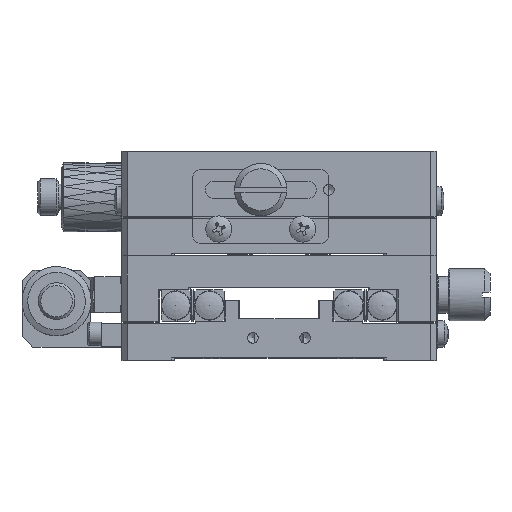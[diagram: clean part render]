
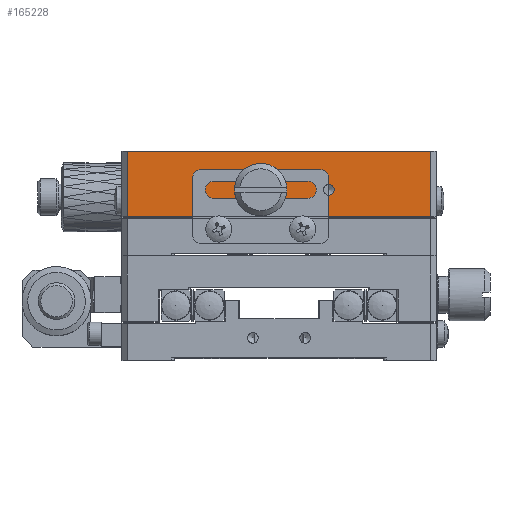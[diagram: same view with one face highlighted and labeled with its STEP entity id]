
A CAD part, top view. The second image highlights one B-rep face of the part: STEP entity #165228.
In plain terms, the highlighted planar face has unit normal (0, 0, 1).
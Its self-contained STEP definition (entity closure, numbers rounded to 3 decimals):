
#516 = FACE_BOUND ( 'NONE', #12198, .T. ) ;
#691 = DIRECTION ( 'NONE',  ( 1., 0., 0. ) ) ;
#2363 = CARTESIAN_POINT ( 'NONE',  ( 85.996, 73.587, 87.192 ) ) ;
#3946 = DIRECTION ( 'NONE',  ( 1., 0., 0. ) ) ;
#5665 = ORIENTED_EDGE ( 'NONE', *, *, #56644, .F. ) ;
#6905 = VERTEX_POINT ( 'NONE', #28017 ) ;
#8396 = CIRCLE ( 'NONE', #93088, 1.25 ) ;
#12198 = EDGE_LOOP ( 'NONE', ( #60523 ) ) ;
#17021 = EDGE_CURVE ( 'NONE', #143756, #112898, #122832, .T. ) ;
#17851 = CARTESIAN_POINT ( 'NONE',  ( 27.996, 73.587, 87.192 ) ) ;
#18568 = VECTOR ( 'NONE', #95592, 1000. ) ;
#21911 = EDGE_LOOP ( 'NONE', ( #32793 ) ) ;
#23674 = FACE_BOUND ( 'NONE', #21911, .T. ) ;
#28017 = CARTESIAN_POINT ( 'NONE',  ( 85.996, 60.987, 87.192 ) ) ;
#28881 = EDGE_CURVE ( 'NONE', #6905, #112898, #81070, .T. ) ;
#30408 = VERTEX_POINT ( 'NONE', #120278 ) ;
#32793 = ORIENTED_EDGE ( 'NONE', *, *, #110389, .F. ) ;
#36505 = DIRECTION ( 'NONE',  ( 0., 0., -1. ) ) ;
#36535 = ORIENTED_EDGE ( 'NONE', *, *, #28881, .T. ) ;
#38330 = EDGE_CURVE ( 'NONE', #143756, #129603, #107705, .T. ) ;
#38488 = VECTOR ( 'NONE', #691, 1000. ) ;
#41291 = AXIS2_PLACEMENT_3D ( 'NONE', #121215, #56177, #3946 ) ;
#49314 = FACE_OUTER_BOUND ( 'NONE', #140068, .T. ) ;
#51318 = ORIENTED_EDGE ( 'NONE', *, *, #129173, .T. ) ;
#52733 = FACE_BOUND ( 'NONE', #119566, .T. ) ;
#53756 = CARTESIAN_POINT ( 'NONE',  ( 51.521, 66.187, 87.192 ) ) ;
#56177 = DIRECTION ( 'NONE',  ( 0., 0., 1. ) ) ;
#56644 = EDGE_CURVE ( 'NONE', #90982, #90982, #8396, .T. ) ;
#57812 = CARTESIAN_POINT ( 'NONE',  ( 26.996, 73.587, 87.192 ) ) ;
#60523 = ORIENTED_EDGE ( 'NONE', *, *, #90553, .F. ) ;
#64050 = LINE ( 'NONE', #130776, #38488 ) ;
#64259 = CARTESIAN_POINT ( 'NONE',  ( 53.496, 66.187, 87.192 ) ) ;
#68902 = CARTESIAN_POINT ( 'NONE',  ( 27.996, 60.987, 87.192 ) ) ;
#81070 = LINE ( 'NONE', #2363, #18568 ) ;
#87419 = CARTESIAN_POINT ( 'NONE',  ( 66.496, 66.187, 87.192 ) ) ;
#88678 = DIRECTION ( 'NONE',  ( -1., 0., 0. ) ) ;
#89137 = DIRECTION ( 'NONE',  ( 1., 0., 0. ) ) ;
#90553 = EDGE_CURVE ( 'NONE', #143622, #143622, #147869, .T. ) ;
#90982 = VERTEX_POINT ( 'NONE', #158569 ) ;
#93088 = AXIS2_PLACEMENT_3D ( 'NONE', #64259, #141261, #143814 ) ;
#94874 = DIRECTION ( 'NONE',  ( 0., -1., 0. ) ) ;
#95592 = DIRECTION ( 'NONE',  ( 0., 1., 0. ) ) ;
#96090 = CARTESIAN_POINT ( 'NONE',  ( 85.996, 73.587, 87.192 ) ) ;
#101506 = PLANE ( 'NONE',  #111644 ) ;
#107705 = LINE ( 'NONE', #17851, #166809 ) ;
#110009 = DIRECTION ( 'NONE',  ( 1., 0., 0. ) ) ;
#110024 = AXIS2_PLACEMENT_3D ( 'NONE', #87419, #112238, #89137 ) ;
#110389 = EDGE_CURVE ( 'NONE', #30408, #30408, #164729, .T. ) ;
#111644 = AXIS2_PLACEMENT_3D ( 'NONE', #153730, #36505, #88678 ) ;
#112238 = DIRECTION ( 'NONE',  ( 0., 0., 1. ) ) ;
#112898 = VERTEX_POINT ( 'NONE', #96090 ) ;
#119566 = EDGE_LOOP ( 'NONE', ( #5665 ) ) ;
#120278 = CARTESIAN_POINT ( 'NONE',  ( 67.521, 66.187, 87.192 ) ) ;
#121215 = CARTESIAN_POINT ( 'NONE',  ( 50.496, 66.187, 87.192 ) ) ;
#122832 = LINE ( 'NONE', #57812, #122839 ) ;
#122839 = VECTOR ( 'NONE', #110009, 1000. ) ;
#126491 = CARTESIAN_POINT ( 'NONE',  ( 27.996, 73.587, 87.192 ) ) ;
#129173 = EDGE_CURVE ( 'NONE', #129603, #6905, #64050, .T. ) ;
#129603 = VERTEX_POINT ( 'NONE', #68902 ) ;
#130776 = CARTESIAN_POINT ( 'NONE',  ( 26.996, 60.987, 87.192 ) ) ;
#140068 = EDGE_LOOP ( 'NONE', ( #149791, #161382, #51318, #36535 ) ) ;
#141261 = DIRECTION ( 'NONE',  ( 0., 0., 1. ) ) ;
#143622 = VERTEX_POINT ( 'NONE', #53756 ) ;
#143756 = VERTEX_POINT ( 'NONE', #126491 ) ;
#143814 = DIRECTION ( 'NONE',  ( 1., 0., 0. ) ) ;
#147869 = CIRCLE ( 'NONE', #41291, 1.025 ) ;
#149791 = ORIENTED_EDGE ( 'NONE', *, *, #17021, .F. ) ;
#153730 = CARTESIAN_POINT ( 'NONE',  ( 26.996, 73.587, 87.192 ) ) ;
#158569 = CARTESIAN_POINT ( 'NONE',  ( 54.746, 66.187, 87.192 ) ) ;
#161382 = ORIENTED_EDGE ( 'NONE', *, *, #38330, .T. ) ;
#164729 = CIRCLE ( 'NONE', #110024, 1.025 ) ;
#165228 = ADVANCED_FACE ( 'NONE', ( #23674, #516, #49314, #52733 ), #101506, .F. ) ;
#166809 = VECTOR ( 'NONE', #94874, 1000. ) ;
